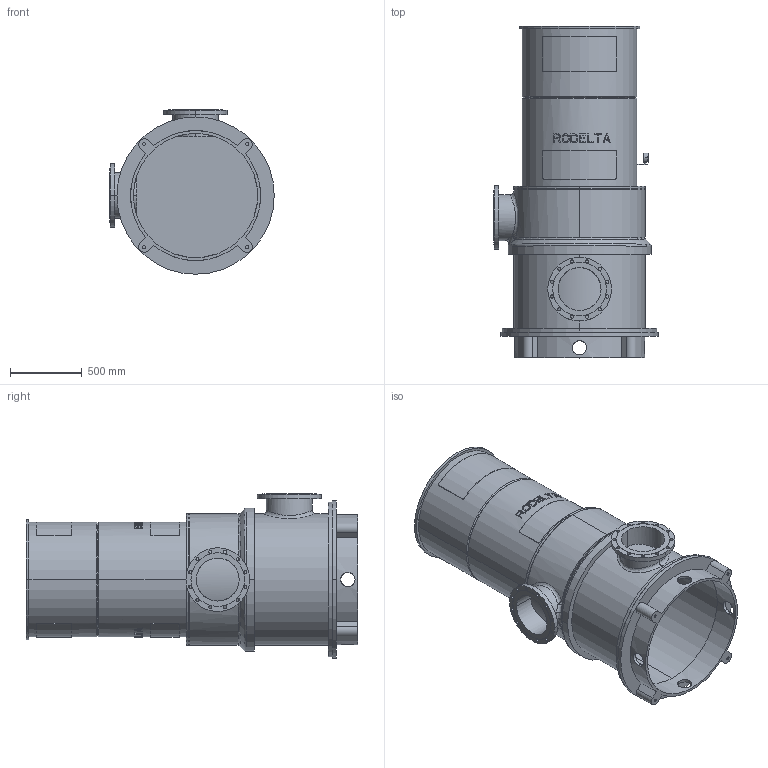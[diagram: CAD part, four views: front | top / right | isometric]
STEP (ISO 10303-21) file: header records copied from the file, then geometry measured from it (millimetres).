
FILE_DESCRIPTION((''),'2;1');
FILE_NAME('LS12_1TR_0GR','2023-08-10T',('Lyritlocal'),(''),'PRO/ENGINEER BY PARAMETRIC TECHNOLOGY CORPORATION, 2016360','PRO/ENGINEER BY PARAMETRIC TECHNOLOGY CORPORATION, 2016360','');
FILE_SCHEMA(('CONFIG_CONTROL_DESIGN'));
Length unit declared in the file: millimetre
Products named in the file (1): LS12_1TR_0GR
Bounding box: 1150 x 2320 x 1150 mm (x, y, z)
Volume: 127219942.3 mm3; surface area: 16689513.9 mm2
Topology: 3 solids, 7 shells, 559 faces, 1469 edges, 971 vertices
Faces by surface type: plane 335, cylinder 198, cone 13, bspline 10, torus 3
Entity records: 18696 total; most frequent: CARTESIAN_POINT 5090, ORIENTED_EDGE 2922, DIRECTION 2629, EDGE_CURVE 1469, AXIS2_PLACEMENT_3D 998, VERTEX_POINT 971, EDGE_LOOP 674, VECTOR 633
